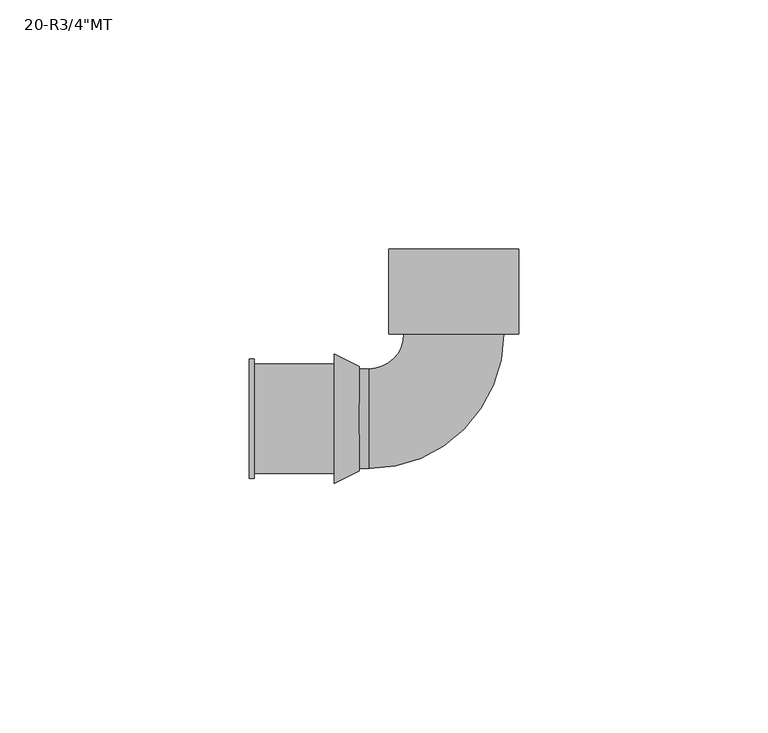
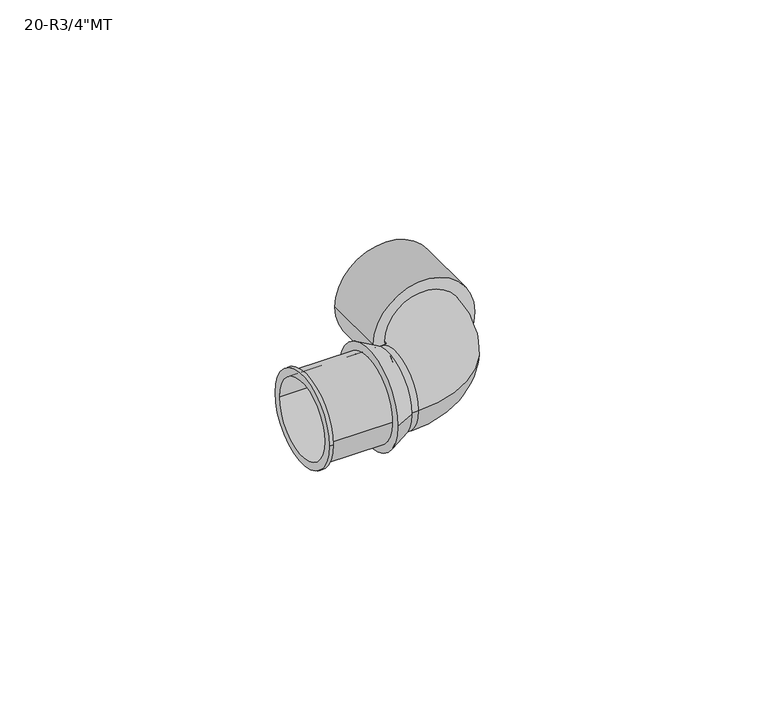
"""IFC4 building model written with IfcOpenShell, lengths in millimetres: pipe fitting geometry."""

from ifc_helpers import new_model, si_unit, point, frame, origin, origin_2d, place, context, project, spatial, polyline, circle_curve, ellipse_curve, trimmed, segment, composite_curve, outline, extrude, source, transform, mapped, element, save
from ifc_brep_helpers import plane_surface, cylinder_surface, revolved_surface, advanced_brep


def pipe_fitting_6a74affa(model_context):
    return source(origin(), model_context, "Body", "SolidModel", [
        advanced_brep(
        [(10.0, 17.0, 0.0), (-10.0, 17.0, 0.0), (-17.0, 10.0, 0.0), (-17.0, -10.0, 0.0), (-19.0, -10.0, 0.0), (-19.0, 10.0, 0.0)],
        [
            (0, 1, circle_curve(frame((0.0, 17.0, 0.0), z_axis=(0.0, 1.0, 0.0), x_axis=(-1.0, 0.0, 0.0)), 10.0)),
            (1, 0, circle_curve(frame((0.0, 17.0, 0.0), z_axis=(0.0, 1.0, 0.0), x_axis=(-1.0, 0.0, 0.0)), 10.0)),
            (1, 2, circle_curve(frame((-17.0, 17.0, 0.0), z_axis=(0.0, 0.0, -1.0), x_axis=(0.0, -1.0, 0.0)), 7.0)),
            (2, 3, circle_curve(frame((-17.0, 0.0, 0.0), z_axis=(1.0, 0.0, 0.0), x_axis=(0.0, 1.0, 0.0)), 10.0)),
            (3, 0, circle_curve(frame((-17.0, 17.0, 0.0), z_axis=(0.0, 0.0, 1.0), x_axis=(0.0, -1.0, 0.0)), 27.0)),
            (3, 2, circle_curve(frame((-17.0, 0.0, 0.0), z_axis=(1.0, 0.0, 0.0), x_axis=(0.0, 1.0, 0.0)), 10.0)),
            (4, 5, circle_curve(frame((-19.0, 0.0, 0.0), z_axis=(-1.0, 0.0, 0.0), x_axis=(0.0, 1.0, 0.0)), 10.0)),
            (5, 4, circle_curve(frame((-19.0, 0.0, 0.0), z_axis=(-1.0, 0.0, 0.0), x_axis=(0.0, 1.0, 0.0)), 10.0)),
            (4, 3),
            (2, 5),
        ],
        [
            plane_surface(frame((0.0, 17.0, 0.0), z_axis=(0.0, 1.0, 0.0), x_axis=(0.0, 0.0, 1.0))),
            revolved_surface(trimmed(ellipse_curve(frame((-17.0, 0.0, 0.0), z_axis=(-1.0, 0.0, 0.0), x_axis=(0.0, 1.0, 0.0)), 10.0, 10.0), [point((-17.0, -10.0, 0.0))], [point((-17.0, 10.0, 0.0))], True, "CARTESIAN"), (-17.0, 17.0, 0.0), (0.0, 0.0, 1.0)),
            revolved_surface(trimmed(ellipse_curve(frame((-17.0, 0.0, 0.0), z_axis=(-1.0, 0.0, 0.0), x_axis=(0.0, 1.0, 0.0)), 10.0, 10.0), [point((-17.0, 10.0, 0.0))], [point((-17.0, -10.0, 0.0))], True, "CARTESIAN"), (-17.0, 17.0, 0.0), (0.0, 0.0, 1.0)),
            plane_surface(frame((-19.0, 0.0, 0.0), z_axis=(-1.0, 0.0, 0.0), x_axis=(0.0, 0.0, 1.0))),
            cylinder_surface(frame((-19.0, 0.0, 0.0), z_axis=(-1.0, 0.0, 0.0), x_axis=(0.0, 1.0, 0.0)), 10.0),
        ],
        [
            (0, [[1, 2]]),
            (1, [[-2, 3, 4, 5]]),
            (2, [[-1, -5, 6, -3]]),
            (3, [[7, 8]]),
            (4, [[-7, 9, -4, 10]]),
            (4, [[-8, -10, -6, -9]]),
        ],
    ),
        extrude(outline(composite_curve([segment(trimmed(circle_curve(origin_2d(), 13.0), [point((0.0, -13.0))], [point((0.0, 13.0))], False, "CARTESIAN"), True, "CONTINUOUS"), segment(trimmed(circle_curve(origin_2d(), 13.0), [point((0.0, 13.0))], [point((0.0, -13.0))], False, "CARTESIAN"), True, "CONTINUOUS")], self_intersect=False), holes=[composite_curve([segment(trimmed(circle_curve(origin_2d(), 10.0), [point((0.0, -10.0))], [point((0.0, 10.0))], True, "CARTESIAN"), True, "CONTINUOUS"), segment(trimmed(circle_curve(origin_2d(), 10.0), [point((0.0, 10.0))], [point((0.0, -10.0))], True, "CARTESIAN"), True, "CONTINUOUS")], self_intersect=False)]), frame((0.0, 17.0, 0.0), z_axis=(0.0, 1.0, 0.0), x_axis=(0.0, 0.0, 1.0)), (0.0, 0.0, 1.0), 17.0),
        advanced_brep(
        [(-19.0, -10.5, 0.0), (-19.0, 10.5, 0.0), (-19.0, 10.0, 0.0), (-19.0, -10.0, 0.0), (-24.0, -13.0, 0.0), (-24.0, 13.0, 0.0), (-24.0, -10.0, 0.0), (-24.0, 10.0, 0.0)],
        [
            (0, 1, circle_curve(frame((-19.0, 0.0, 0.0), z_axis=(1.0, 0.0, 0.0), x_axis=(0.0, -1.0, 0.0)), 10.5)),
            (1, 0, circle_curve(frame((-19.0, 0.0, 0.0), z_axis=(1.0, 0.0, 0.0), x_axis=(0.0, 1.0, 0.0)), 10.5)),
            (2, 3, circle_curve(frame((-19.0, 0.0, 0.0), z_axis=(-1.0, 0.0, 0.0), x_axis=(0.0, 1.0, 0.0)), 10.0)),
            (3, 2, circle_curve(frame((-19.0, 0.0, 0.0), z_axis=(-1.0, 0.0, 0.0), x_axis=(0.0, 1.0, 0.0)), 10.0)),
            (4, 5, circle_curve(frame((-24.0, 0.0, 0.0), z_axis=(-1.0, 0.0, 0.0), x_axis=(0.0, 1.0, 0.0)), 13.0)),
            (5, 4, circle_curve(frame((-24.0, 0.0, 0.0), z_axis=(-1.0, 0.0, 0.0), x_axis=(0.0, -1.0, 0.0)), 13.0)),
            (6, 7, circle_curve(frame((-24.0, 0.0, 0.0), z_axis=(1.0, 0.0, 0.0), x_axis=(0.0, 1.0, 0.0)), 10.0)),
            (7, 6, circle_curve(frame((-24.0, 0.0, 0.0), z_axis=(1.0, 0.0, 0.0), x_axis=(0.0, 1.0, 0.0)), 10.0)),
            (0, 4),
            (5, 1),
            (2, 7),
            (6, 3),
        ],
        [
            plane_surface(frame((-19.0, 0.0, 0.0), z_axis=(1.0, 0.0, 0.0), x_axis=(0.0, 0.0, -1.0))),
            plane_surface(frame((-24.0, 0.0, 0.0), z_axis=(-1.0, 0.0, 0.0), x_axis=(0.0, 0.0, -1.0))),
            revolved_surface(polyline([(-19.0, -10.5, 0.0), (-24.0, -13.0, 0.0)]), (2.0, 0.0, 0.0), (-1.0, 0.0, 0.0)),
            revolved_surface(polyline([(-19.0, 10.5, 0.0), (-24.0, 13.0, 0.0)]), (2.0, 0.0, 0.0), (-1.0, 0.0, 0.0)),
            revolved_surface(polyline([(-19.0, 10.0, 0.0), (-24.0, 10.0, 0.0)]), (-24.0, 0.0, 0.0), (1.0, 0.0, 0.0)),
        ],
        [
            (0, [[1, 2], [3, 4]]),
            (1, [[5, 6], [7, 8]]),
            (2, [[-1, 9, -6, 10]]),
            (3, [[-2, -10, -5, -9]]),
            (4, [[11, -7, 12, -3]]),
            (4, [[-11, -4, -12, -8]]),
        ],
    ),
        advanced_brep(
        [(-41.0, -12.0, 0.0), (-41.0, 12.0, 0.0), (-41.0, -10.0, 0.0), (-41.0, 10.0, 0.0), (-24.0, -11.0, 0.0), (-24.0, 11.0, 0.0), (-24.0, -10.0, 0.0), (-24.0, 10.0, 0.0), (-40.0, 11.0, 0.0), (-40.0, -11.0, 0.0), (-40.0, -12.0, 0.0), (-40.0, 12.0, 0.0)],
        [
            (0, 1, circle_curve(frame((-41.0, 0.0, 0.0), z_axis=(-1.0, 0.0, 0.0), x_axis=(0.0, 1.0, 0.0)), 12.0)),
            (1, 0, circle_curve(frame((-41.0, 0.0, 0.0), z_axis=(-1.0, 0.0, 0.0), x_axis=(0.0, 1.0, 0.0)), 12.0)),
            (2, 3, circle_curve(frame((-41.0, 0.0, 0.0), z_axis=(1.0, 0.0, 0.0), x_axis=(0.0, 1.0, 0.0)), 10.0)),
            (3, 2, circle_curve(frame((-41.0, 0.0, 0.0), z_axis=(1.0, 0.0, 0.0), x_axis=(0.0, 1.0, 0.0)), 10.0)),
            (4, 5, circle_curve(frame((-24.0, 0.0, 0.0), z_axis=(1.0, 0.0, 0.0), x_axis=(0.0, 1.0, 0.0)), 11.0)),
            (5, 4, circle_curve(frame((-24.0, 0.0, 0.0), z_axis=(1.0, 0.0, 0.0), x_axis=(0.0, 1.0, 0.0)), 11.0)),
            (6, 7, circle_curve(frame((-24.0, 0.0, 0.0), z_axis=(-1.0, 0.0, 0.0), x_axis=(0.0, 1.0, 0.0)), 10.0)),
            (7, 6, circle_curve(frame((-24.0, 0.0, 0.0), z_axis=(-1.0, 0.0, 0.0), x_axis=(0.0, 1.0, 0.0)), 10.0)),
            (2, 6),
            (7, 3),
            (5, 8),
            (8, 9, circle_curve(frame((-40.0, 0.0, 0.0), z_axis=(1.0, 0.0, 0.0), x_axis=(0.0, 1.0, 0.0)), 11.0)),
            (9, 4),
            (9, 8, circle_curve(frame((-40.0, 0.0, 0.0), z_axis=(1.0, 0.0, 0.0), x_axis=(0.0, 1.0, 0.0)), 11.0)),
            (10, 11, circle_curve(frame((-40.0, 0.0, 0.0), z_axis=(1.0, 0.0, 0.0), x_axis=(0.0, 1.0, 0.0)), 12.0)),
            (11, 10, circle_curve(frame((-40.0, 0.0, 0.0), z_axis=(1.0, 0.0, 0.0), x_axis=(0.0, 1.0, 0.0)), 12.0)),
            (0, 10),
            (11, 1),
        ],
        [
            plane_surface(frame((-41.0, 0.0, 0.0), z_axis=(-1.0, 0.0, 0.0), x_axis=(0.0, 0.0, 1.0))),
            plane_surface(frame((-24.0, 0.0, 0.0), z_axis=(1.0, 0.0, 0.0), x_axis=(0.0, 0.0, 1.0))),
            revolved_surface(polyline([(-24.0, 10.0, 0.0), (-41.0, 10.0, 0.0)]), (-41.0, 0.0, 0.0), (1.0, 0.0, 0.0)),
            cylinder_surface(frame((-41.0, 0.0, 0.0), z_axis=(-1.0, 0.0, 0.0), x_axis=(0.0, 1.0, 0.0)), 11.0),
            plane_surface(frame((-40.0, 0.0, 0.0), z_axis=(1.0, 0.0, 0.0), x_axis=(0.0, 0.0, 1.0))),
            cylinder_surface(frame((-41.0, 0.0, 0.0), z_axis=(-1.0, 0.0, 0.0), x_axis=(0.0, 1.0, 0.0)), 12.0),
        ],
        [
            (0, [[1, 2], [3, 4]]),
            (1, [[5, 6], [7, 8]]),
            (2, [[-3, 9, -8, 10]]),
            (2, [[-4, -10, -7, -9]]),
            (3, [[-6, 11, 12, 13]]),
            (3, [[-5, -13, 14, -11]]),
            (4, [[15, 16], [-12, -14]]),
            (5, [[-1, 17, -16, 18]]),
            (5, [[-2, -18, -15, -17]]),
        ],
    ),
    ])


if __name__ == "__main__":
    model = new_model("IFC4")
    model_context = context("Model", 3, world=origin())
    ifc_project = project(units=[si_unit("LENGTHUNIT", "METRE", prefix="MILLI")], contexts=[model_context])
    site = spatial("IfcSite", under=ifc_project)
    building = spatial("IfcBuilding", under=site)
    placement = place(None, origin())
    pipe_fitting_shape = pipe_fitting_6a74affa(model_context)
    element("IfcPipeFitting", 1, ObjectType="SuperPipe_ElbowAdapterMT_MAX_R : 20-R3/4\"MT", at=placement, inside=building, context=model_context, shape_type="MappedRepresentation", body=[
        mapped(pipe_fitting_shape, transform((0.0, 0.0, 0.0), x_axis=(1.0, 0.0, 0.0), y_axis=(0.0, 1.0, 0.0), z_axis=(0.0, 0.0, 1.0))),
    ])
    save(model, "model.ifc")
